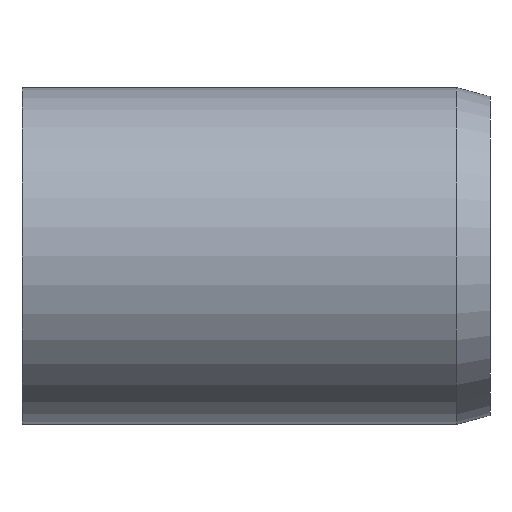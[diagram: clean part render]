
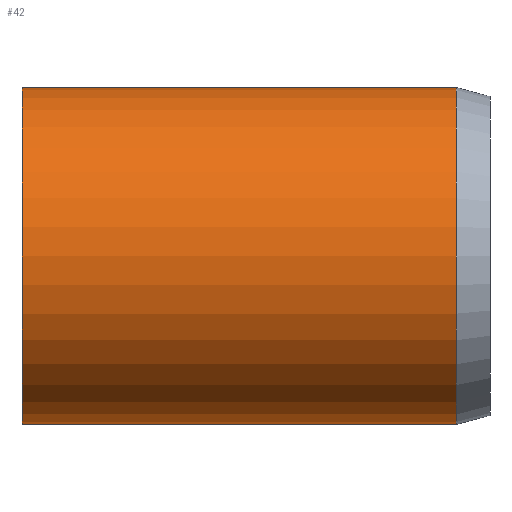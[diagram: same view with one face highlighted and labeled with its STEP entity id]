
A CAD part, left-side view. The second image highlights one B-rep face of the part: STEP entity #42.
In plain terms, the highlighted cylindrical face has radius 9 mm (diameter 18 mm), a partial arc.
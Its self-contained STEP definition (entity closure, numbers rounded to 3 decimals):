
#15 = VERTEX_POINT ( 'NONE', #189 ) ;
#21 = LINE ( 'NONE', #175, #192 ) ;
#42 = ADVANCED_FACE ( 'NONE', ( #155 ), #110, .T. ) ;
#47 = DIRECTION ( 'NONE',  ( 0., 0., -1. ) ) ;
#75 = CARTESIAN_POINT ( 'NONE',  ( 0., 25., -9. ) ) ;
#86 = AXIS2_PLACEMENT_3D ( 'NONE', #441, #114, #259 ) ;
#90 = DIRECTION ( 'NONE',  ( 0., -1., 0. ) ) ;
#92 = ORIENTED_EDGE ( 'NONE', *, *, #126, .T. ) ;
#95 = EDGE_CURVE ( 'NONE', #15, #137, #389, .T. ) ;
#96 = CARTESIAN_POINT ( 'NONE',  ( 0., 25., 0. ) ) ;
#103 = CARTESIAN_POINT ( 'NONE',  ( 0., 0., 9. ) ) ;
#110 = CYLINDRICAL_SURFACE ( 'NONE', #86, 9. ) ;
#114 = DIRECTION ( 'NONE',  ( 0., -1., 0. ) ) ;
#126 = EDGE_CURVE ( 'NONE', #137, #442, #21, .T. ) ;
#137 = VERTEX_POINT ( 'NONE', #75 ) ;
#145 = CIRCLE ( 'NONE', #340, 9. ) ;
#155 = FACE_OUTER_BOUND ( 'NONE', #425, .T. ) ;
#163 = CARTESIAN_POINT ( 'NONE',  ( 0., 1.8, 0. ) ) ;
#167 = VERTEX_POINT ( 'NONE', #367 ) ;
#175 = CARTESIAN_POINT ( 'NONE',  ( 0., 0., -9. ) ) ;
#178 = ORIENTED_EDGE ( 'NONE', *, *, #95, .T. ) ;
#189 = CARTESIAN_POINT ( 'NONE',  ( 0., 25., 9. ) ) ;
#192 = VECTOR ( 'NONE', #322, 1000. ) ;
#200 = VECTOR ( 'NONE', #326, 1000. ) ;
#206 = DIRECTION ( 'NONE',  ( 0., 0., -1. ) ) ;
#210 = DIRECTION ( 'NONE',  ( 0., -1., 0. ) ) ;
#212 = ORIENTED_EDGE ( 'NONE', *, *, #244, .F. ) ;
#244 = EDGE_CURVE ( 'NONE', #15, #167, #432, .T. ) ;
#246 = ORIENTED_EDGE ( 'NONE', *, *, #457, .F. ) ;
#259 = DIRECTION ( 'NONE',  ( 0., 0., -1. ) ) ;
#306 = CARTESIAN_POINT ( 'NONE',  ( 0., 1.8, -9. ) ) ;
#322 = DIRECTION ( 'NONE',  ( 0., -1., 0. ) ) ;
#326 = DIRECTION ( 'NONE',  ( 0., -1., 0. ) ) ;
#340 = AXIS2_PLACEMENT_3D ( 'NONE', #163, #90, #47 ) ;
#341 = AXIS2_PLACEMENT_3D ( 'NONE', #96, #210, #206 ) ;
#367 = CARTESIAN_POINT ( 'NONE',  ( 0., 1.8, 9. ) ) ;
#389 = CIRCLE ( 'NONE', #341, 9. ) ;
#425 = EDGE_LOOP ( 'NONE', ( #212, #178, #92, #246 ) ) ;
#432 = LINE ( 'NONE', #103, #200 ) ;
#441 = CARTESIAN_POINT ( 'NONE',  ( 0., 0., 0. ) ) ;
#442 = VERTEX_POINT ( 'NONE', #306 ) ;
#457 = EDGE_CURVE ( 'NONE', #167, #442, #145, .T. ) ;
